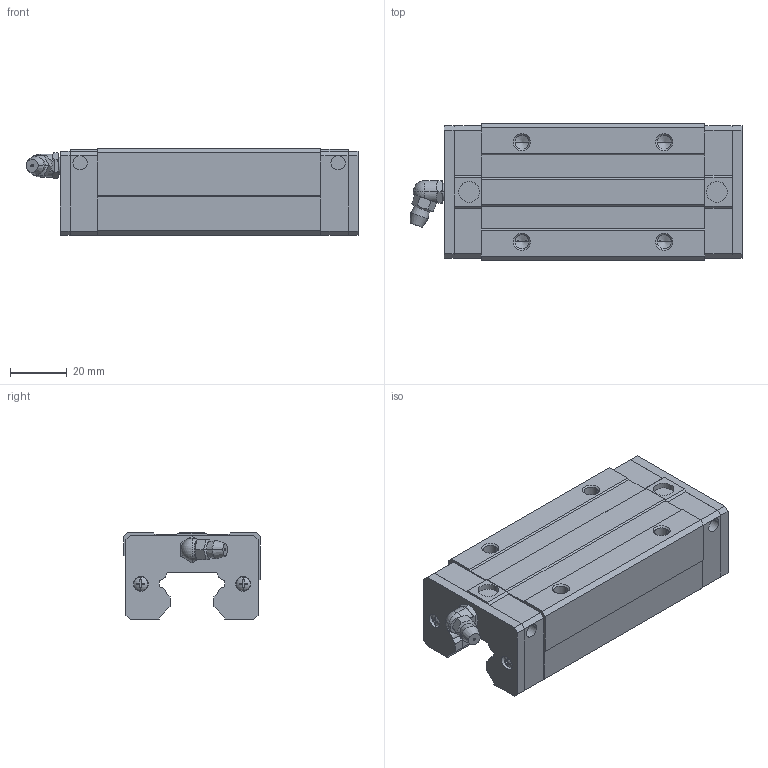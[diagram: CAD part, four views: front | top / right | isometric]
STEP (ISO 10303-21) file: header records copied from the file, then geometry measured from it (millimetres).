
FILE_DESCRIPTION(('starvars output'),'2;1');
FILE_NAME('cv20190625225713000112172.stp','22:57:14 2019/06/25',( 'Thomas Industrial Network Germany GmbH'),( 'Thomas Industrial Network Germany GmbH'),'unknown preprocess','ACIS' ,'unknown authorization');
FILE_SCHEMA(('CONFIG_CONTROL_DESIGN {UNKNOWN IMPLEMENTATION LEVEL}'));
Length unit declared in the file: millimetre
Products named in the file (10): PRODUCT_ID_1; PRODUCT_ID_2; PRODUCT_ID_3; PRODUCT_ID_4; PRODUCT_ID_5; PRODUCT_ID_6; PRODUCT_ID_7; PRODUCT_ID_8; PRODUCT_ID_9; PRODUCT_ID_10
Bounding box: 116.6 x 48 x 30.5 mm (x, y, z)
Volume: 115097.4 mm3; surface area: 32551 mm2
Topology: 10 solids, 10 shells, 389 faces, 1000 edges, 636 vertices
Faces by surface type: plane 250, cone 64, cylinder 63, sphere 12
Entity records: 11305 total; most frequent: ORIENTED_EDGE 1976, CARTESIAN_POINT 1853, DIRECTION 1539, EDGE_CURVE 988, VECTOR 643, LINE 643, VERTEX_POINT 636, AXIS2_PLACEMENT_3D 448
